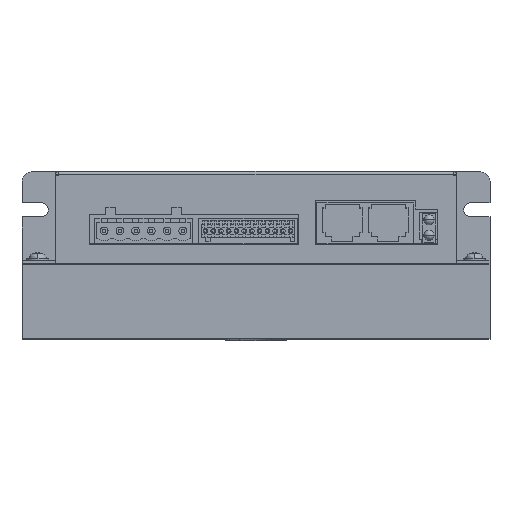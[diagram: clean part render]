
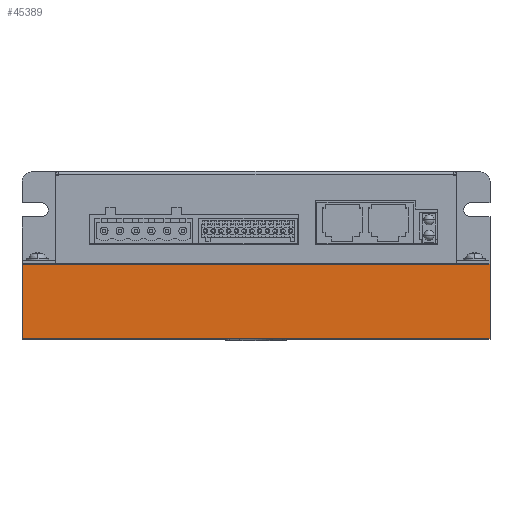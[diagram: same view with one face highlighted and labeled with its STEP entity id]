
A CAD part, top view. The second image highlights one B-rep face of the part: STEP entity #45389.
In plain terms, the highlighted planar face has unit normal (0, 0, 1).
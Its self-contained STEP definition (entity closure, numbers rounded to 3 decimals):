
#6701=DIRECTION('',(-1.,0.,0.));
#6702=VECTOR('',#6701,151.2);
#6703=CARTESIAN_POINT('',(151.2,-28.,2.));
#6704=LINE('',#6703,#6702);
#7022=DIRECTION('',(0.,-1.,0.));
#7023=VECTOR('',#7022,24.);
#7024=CARTESIAN_POINT('',(0.,-28.,2.));
#7025=LINE('',#7024,#7023);
#9172=DIRECTION('',(0.,-1.,0.));
#9173=VECTOR('',#9172,24.);
#9174=CARTESIAN_POINT('',(151.2,-28.,2.));
#9175=LINE('',#9174,#9173);
#9176=DIRECTION('',(-1.,0.,0.));
#9177=VECTOR('',#9176,151.2);
#9178=CARTESIAN_POINT('',(151.2,-52.,2.));
#9179=LINE('',#9178,#9177);
#29484=CARTESIAN_POINT('',(0.,-28.,2.));
#29486=VERTEX_POINT('',#29484);
#29489=CARTESIAN_POINT('',(151.2,-28.,2.));
#29490=VERTEX_POINT('',#29489);
#29633=CARTESIAN_POINT('',(0.,-52.,2.));
#29634=VERTEX_POINT('',#29633);
#29873=CARTESIAN_POINT('',(151.2,-52.,2.));
#29874=VERTEX_POINT('',#29873);
#45378=CARTESIAN_POINT('',(0.,-52.,2.));
#45379=DIRECTION('',(0.,0.,1.));
#45380=DIRECTION('',(0.,1.,0.));
#45381=AXIS2_PLACEMENT_3D('',#45378,#45379,#45380);
#45382=PLANE('',#45381);
#45383=ORIENTED_EDGE('',*,*,#42914,.F.);
#45384=ORIENTED_EDGE('',*,*,#42732,.F.);
#45385=ORIENTED_EDGE('',*,*,#43341,.T.);
#45386=ORIENTED_EDGE('',*,*,#45372,.T.);
#45387=EDGE_LOOP('',(#45383,#45384,#45385,#45386));
#45388=FACE_OUTER_BOUND('',#45387,.F.);
#45389=ADVANCED_FACE('',(#45388),#45382,.T.);
#42732=EDGE_CURVE('',#29490,#29486,#6704,.T.);
#42914=EDGE_CURVE('',#29486,#29634,#7025,.T.);
#43341=EDGE_CURVE('',#29490,#29874,#9175,.T.);
#45372=EDGE_CURVE('',#29874,#29634,#9179,.T.);
